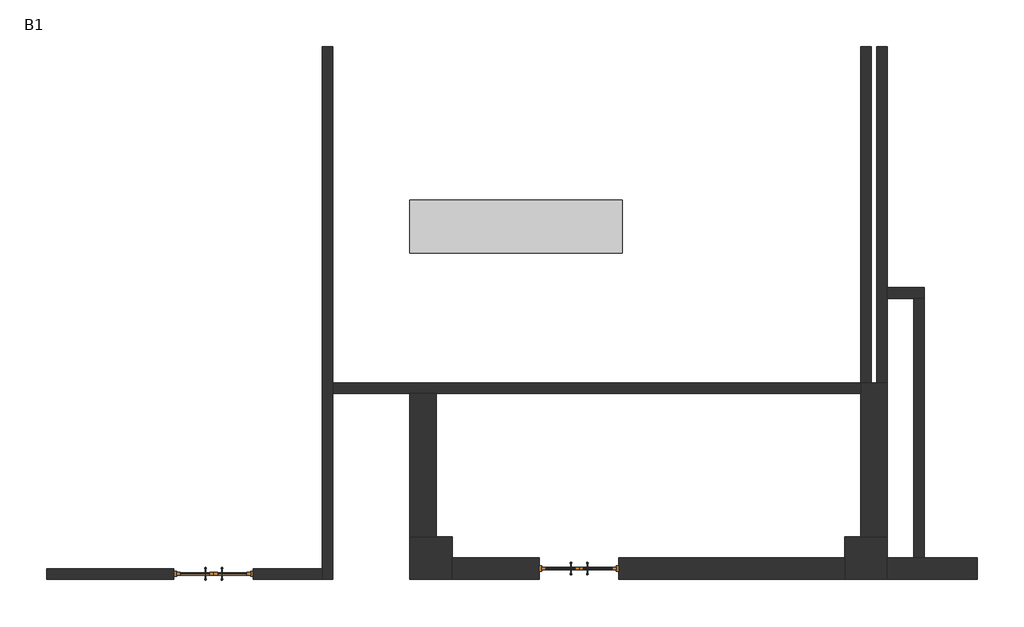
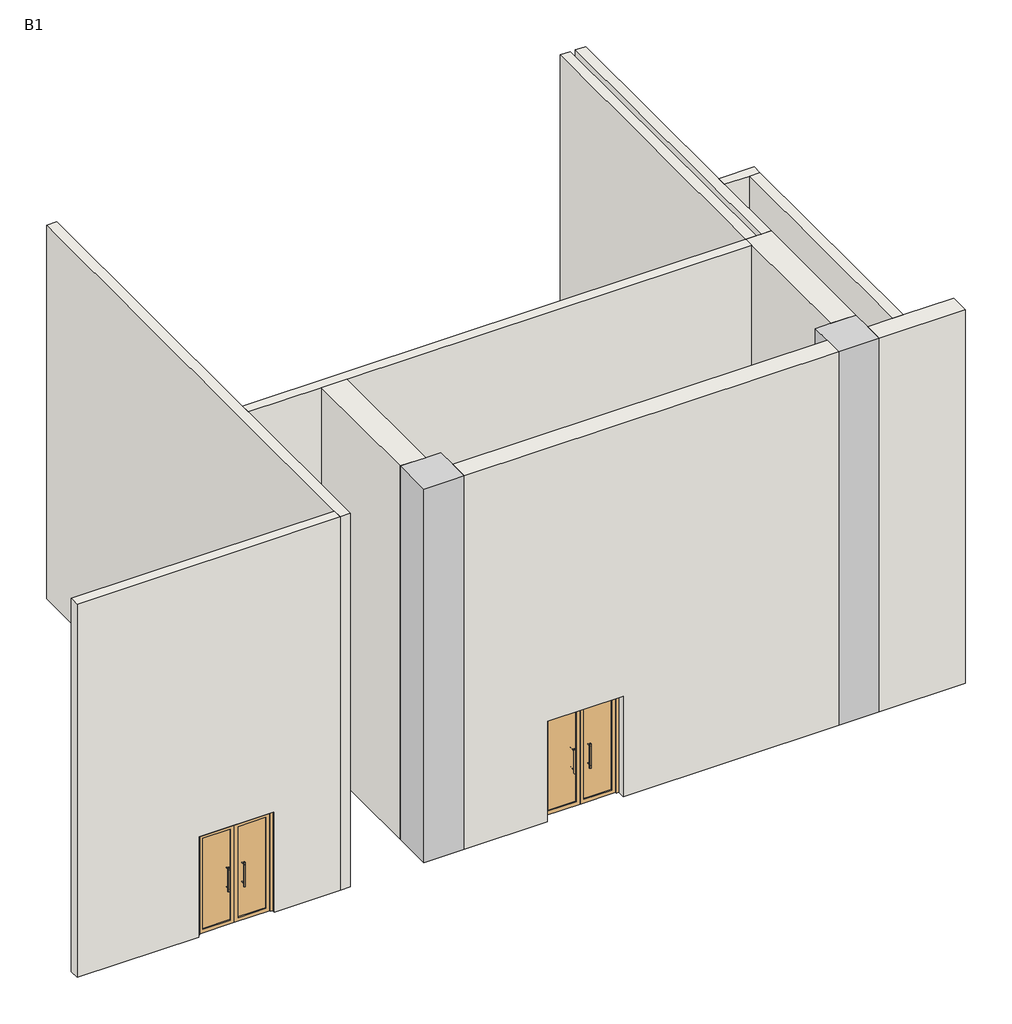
# One storey: 10 walls, 2 columns, 2 doors, 1 proxy.
"""IFC4 building model written with IfcOpenShell, lengths in millimetres."""

from ifc_helpers import new_model, si_unit, frame, origin, place, context, project, spatial, polyline, outline, extrude, faceted_brep, transform, mapped, element, save
from components import generic_models_cb15ba2c, door_1500_x_2100mm_b0fe12bd

model = new_model("IFC4")

# Units and contexts
model_context = context("Model", 3, world=origin())
ifc_project = project(units=[si_unit("LENGTHUNIT", "METRE", prefix="MILLI")], contexts=[model_context])

# Site, building, storey
site = spatial("IfcSite", under=ifc_project)
building = spatial("IfcBuilding", under=site)
storey = spatial("IfcBuildingStorey", under=building, Name="B1", Elevation=-4200.0)

# Proxy
placement = place(None, origin())
generic_models_shape = generic_models_cb15ba2c(model_context)
element("IfcBuildingElementProxy", 1, Name="基础 : 基础", ObjectType="基础 : 基础", at=placement, inside=storey, context=model_context, shape_type="MappedRepresentation", body=[
    mapped(generic_models_shape, transform((0.0, 0.0, 0.0), x_axis=(1.0, 0.0, 0.0), y_axis=(0.0, 1.0, 0.0), z_axis=(0.0, 0.0, 1.0))),
])

# Columns
element("IfcColumn", 2, ObjectType="混凝土 - 矩形 - 柱 : 800 x 800mm", at=placement, inside=storey, context=model_context, shape_type="Brep", body=[
    faceted_brep([(-6094.8451576, -8767.8389358, 3600.0), (-6394.8451576, -8767.8389358, 3600.0), (-6894.8451576, -8767.8389358, 3600.0), (-6894.8451576, -9567.8389358, 3600.0), (-6094.8451576, -9567.8389358, 3600.0), (-6094.8451576, -9167.8389358, 3600.0), (-6094.8451576, -9567.8389358, -4200.0), (-6094.8451576, -9167.8389358, -4200.0), (-6094.8451576, -8767.8389358, -4200.0), (-6894.8451576, -9567.8389358, -4200.0), (-6894.8451576, -8767.8389358, -4200.0), (-6394.8451576, -8767.8389358, -4200.0)], [[[0, 1, 2, 3, 4, 5]], [[0, 5, 4, 6, 7, 8]], [[4, 3, 9, 6]], [[3, 2, 10, 9]], [[2, 1, 0, 8, 11, 10]], [[8, 7, 6, 9, 10, 11]]]),
])
element("IfcColumn", 3, ObjectType="混凝土 - 矩形 - 柱 : 800 x 800mm", at=placement, inside=storey, context=model_context, shape_type="Brep", body=[
    faceted_brep([(2105.1548424, -8767.8389358, 3600.0), (1605.1548424, -8767.8389358, 3600.0), (1305.1548424, -8767.8389358, 3600.0), (1305.1548424, -9167.8389358, 3600.0), (1305.1548424, -9567.8389358, 3600.0), (2105.1548424, -9567.8389358, 3600.0), (2105.1548424, -9167.8389358, 3600.0), (2105.1548424, -9567.8389358, -4200.0), (2105.1548424, -9167.8389358, -4200.0), (2105.1548424, -8767.8389358, -4200.0), (1305.1548424, -9567.8389358, -4200.0), (1305.1548424, -8767.8389358, -4200.0), (1305.1548424, -9167.8389358, -4200.0), (1605.1548424, -8767.8389358, -4200.0)], [[[0, 1, 2, 3, 4, 5, 6]], [[0, 6, 5, 7, 8, 9]], [[5, 4, 10, 7]], [[4, 3, 2, 11, 12, 10]], [[2, 1, 0, 9, 13, 11]], [[9, 8, 7, 10, 12, 11, 13]]]),
])

# Doors
door_1500_x_2100mm_shape = door_1500_x_2100mm_b0fe12bd(model_context)
element("IfcDoor", 4, ObjectType="双面嵌板玻璃门 : 1500 x 2100mm", at=placement, inside=storey, context=model_context, shape_type="MappedRepresentation", body=[
    mapped(door_1500_x_2100mm_shape, transform((-3704.8451576, -9367.8389358, -4200.0), x_axis=(1.0, 0.0, 0.0), y_axis=(0.0, 1.0, 0.0), z_axis=(0.0, 0.0, 1.0))),
])
element("IfcDoor", 5, ObjectType="双面嵌板玻璃门 : 1500 x 2100mm", at=placement, inside=storey, context=model_context, shape_type="MappedRepresentation", body=[
    mapped(door_1500_x_2100mm_shape, transform((-10594.8451576, -9467.8389358, -4200.0), x_axis=(-1.0, 0.0, 0.0), y_axis=(0.0, -1.0, 0.0), z_axis=(0.0, 0.0, 1.0))),
])

# Walls
element("IfcWall", 6, ObjectType="常规 - 400mm", at=placement, inside=storey, context=model_context, shape_type="Brep", body=[
    faceted_brep([(3805.1548424, -9567.8389358, -4200.0), (3805.1548424, -9567.8389358, 3600.0), (2105.1548424, -9567.8389358, 3600.0), (2105.1548424, -9567.8389358, -4200.0), (3805.1548424, -9167.8389358, 3600.0), (3805.1548424, -9167.8389358, -4200.0), (2805.1548424, -9167.8389358, -4200.0), (2605.1548424, -9167.8389358, -4200.0), (2105.1548424, -9167.8389358, -4200.0), (2105.1548424, -9167.8389358, 3600.0), (2605.1548424, -9167.8389358, 3600.0), (2805.1548424, -9167.8389358, 3600.0)], [[[0, 1, 2, 3]], [[4, 5, 6, 7, 8, 9, 10, 11]], [[5, 0, 3, 8, 7, 6]], [[1, 0, 5, 4]], [[1, 4, 11, 10, 9, 2]], [[3, 2, 9, 8]]]),
    faceted_brep([(-6094.8451576, -9567.8389358, 3600.0), (-6094.8451576, -9567.8389358, -4200.0), (-4454.8451576, -9567.8389358, -4200.0), (-4454.8451576, -9567.8389358, -2100.0), (-2954.8451576, -9567.8389358, -2100.0), (-2954.8451576, -9567.8389358, -4200.0), (1305.1548424, -9567.8389358, -4200.0), (1305.1548424, -9567.8389358, 3600.0), (-6094.8451576, -9167.8389358, -4200.0), (-6094.8451576, -9167.8389358, 3600.0), (1305.1548424, -9167.8389358, 3600.0), (1305.1548424, -9167.8389358, -4200.0), (-2954.8451576, -9167.8389358, -4200.0), (-2954.8451576, -9167.8389358, -2100.0), (-4454.8451576, -9167.8389358, -2100.0), (-4454.8451576, -9167.8389358, -4200.0)], [[[0, 1, 2, 3, 4, 5, 6, 7]], [[8, 9, 10, 11, 12, 13, 14, 15]], [[1, 8, 15, 2]], [[5, 12, 11, 6]], [[9, 0, 7, 10]], [[1, 0, 9, 8]], [[7, 6, 11, 10]], [[4, 13, 12, 5]], [[13, 4, 3, 14]], [[14, 3, 2, 15]]]),
])
element("IfcWall", 7, ObjectType="常规 - 500mm", at=placement, inside=storey, context=model_context, shape_type="Brep", body=[
    faceted_brep([(2105.1548424, -5867.8389358, -4200.0), (2105.1548424, -5867.8389358, 3600.0), (2105.1548424, -8767.8389358, 3600.0), (2105.1548424, -8767.8389358, -4200.0), (1605.1548424, -5867.8389358, 3600.0), (1605.1548424, -5867.8389358, -4200.0), (1605.1548424, -6067.8389358, -4200.0), (1605.1548424, -8767.8389358, -4200.0), (1605.1548424, -8767.8389358, 3600.0), (1605.1548424, -6067.8389358, 3600.0), (1805.1548424, -5867.8389358, -4200.0), (1905.1548424, -5867.8389358, -4200.0), (1905.1548424, -5867.8389358, 3600.0), (1805.1548424, -5867.8389358, 3600.0)], [[[0, 1, 2, 3]], [[4, 5, 6, 7, 8, 9]], [[5, 10, 11, 0, 3, 7, 6]], [[1, 12, 13, 4, 9, 8, 2]], [[3, 2, 8, 7]], [[1, 0, 11, 10, 5, 4, 13, 12]]]),
])
element("IfcWall", 8, ObjectType="常规 - 500mm", at=placement, inside=storey, context=model_context, shape_type="SweptSolid", body=[
    extrude(outline(polyline([(-6894.8451576, -6067.8389358), (-6394.8451576, -6067.8389358), (-6394.8451576, -8767.8389358), (-6894.8451576, -8767.8389358), (-6894.8451576, -6067.8389358)])), frame((0.0, 0.0, -4200.0), z_axis=(0.0, 0.0, 1.0), x_axis=(1.0, 0.0, 0.0)), (0.0, 0.0, 1.0), 7800.0),
])
element("IfcWall", 9, ObjectType="常规 - 200mm", at=placement, inside=storey, context=model_context, shape_type="Brep", body=[
    faceted_brep([(-8344.8451576, -6067.8389358, -4200.0), (-6894.8451576, -6067.8389358, -4200.0), (-6394.8451576, -6067.8389358, -4200.0), (1605.1548424, -6067.8389358, -4200.0), (1605.1548424, -6067.8389358, 3600.0), (-6394.8451576, -6067.8389358, 3600.0), (-6894.8451576, -6067.8389358, 3600.0), (-8344.8451576, -6067.8389358, 3600.0), (-8344.8451576, -5867.8389358, -4200.0), (-8344.8451576, -5867.8389358, 3600.0), (1605.1548424, -5867.8389358, 3600.0), (1605.1548424, -5867.8389358, -4200.0)], [[[0, 1, 2, 3, 4, 5, 6, 7]], [[8, 9, 10, 11]], [[3, 2, 1, 0, 8, 11]], [[7, 6, 5, 4, 10, 9]], [[4, 3, 11, 10]], [[0, 7, 9, 8]]]),
])
element("IfcWall", 10, ObjectType="常规 - 200mm", at=placement, inside=storey, context=model_context, shape_type="Brep", body=[
    faceted_brep([(-8344.8451576, -9567.8389358, -4200.0), (-8344.8451576, -6067.8389358, -4200.0), (-8344.8451576, -5867.8389358, -4200.0), (-8344.8451576, 482.1610642, -4200.0), (-8344.8451576, 482.1610642, 3600.0), (-8344.8451576, -5867.8389358, 3600.0), (-8344.8451576, -6067.8389358, 3600.0), (-8344.8451576, -9567.8389358, 3600.0), (-8544.8451576, -9567.8389358, -4200.0), (-8544.8451576, -9567.8389358, 3600.0), (-8544.8451576, -9367.8389358, 3600.0), (-8544.8451576, 482.1610642, 3600.0), (-8544.8451576, 482.1610642, -4200.0), (-8544.8451576, -9367.8389358, -4200.0)], [[[0, 1, 2, 3, 4, 5, 6, 7]], [[8, 9, 10, 11, 12, 13]], [[3, 2, 1, 0, 8, 13, 12]], [[4, 3, 12, 11]], [[7, 6, 5, 4, 11, 10, 9]], [[0, 7, 9, 8]]]),
])
element("IfcWall", 11, ObjectType="常规 - 200mm", at=placement, inside=storey, context=model_context, shape_type="SweptSolid", body=[
    extrude(outline(polyline([(3600.0, -13744.8451576), (-4200.0, -13744.8451576), (-4200.0, -11344.8451576), (-2100.0, -11344.8451576), (-2100.0, -9844.8451576), (-4200.0, -9844.8451576), (-4200.0, -8544.8451576), (3600.0, -8544.8451576), (3600.0, -13744.8451576)])), frame((0.0, -9567.8389358, 0.0), z_axis=(0.0, 1.0, 0.0), x_axis=(0.0, 0.0, 1.0)), (0.0, 0.0, 1.0), 200.0),
])
element("IfcWall", 12, ObjectType="常规 - 200mm", at=placement, inside=storey, context=model_context, shape_type="Brep", body=[
    faceted_brep([(2105.1548424, -5867.8389358, -4200.0), (2105.1548424, -4267.8389358, -4200.0), (2105.1548424, -4067.8389358, -4200.0), (2105.1548424, 482.1610642, -4200.0), (2105.1548424, 482.1610642, 3600.0), (2105.1548424, -4067.8389358, 3600.0), (2105.1548424, -4267.8389358, 3600.0), (2105.1548424, -5867.8389358, 3600.0), (1905.1548424, -5867.8389358, -4200.0), (1905.1548424, -5867.8389358, 3600.0), (1905.1548424, 482.1610642, 3600.0), (1905.1548424, 482.1610642, -4200.0)], [[[0, 1, 2, 3, 4, 5, 6, 7]], [[8, 9, 10, 11]], [[3, 2, 1, 0, 8, 11]], [[4, 3, 11, 10]], [[7, 6, 5, 4, 10, 9]], [[0, 7, 9, 8]]]),
])
element("IfcWall", 13, ObjectType="常规 - 200mm", at=placement, inside=storey, context=model_context, shape_type="SweptSolid", body=[
    extrude(outline(polyline([(1805.1548424, 482.1610642), (1805.1548424, -5867.8389358), (1605.1548424, -5867.8389358), (1605.1548424, 482.1610642), (1805.1548424, 482.1610642)])), frame((0.0, 0.0, -4200.0), z_axis=(0.0, 0.0, 1.0), x_axis=(1.0, 0.0, 0.0)), (0.0, 0.0, 1.0), 7800.0),
])
element("IfcWall", 14, ObjectType="常规 - 200mm", at=placement, inside=storey, context=model_context, shape_type="Brep", body=[
    faceted_brep([(2105.1548424, -4267.8389358, -4200.0), (2605.1548424, -4267.8389358, -4200.0), (2805.1548424, -4267.8389358, -4200.0), (2805.1548424, -4267.8389358, 3600.0), (2605.1548424, -4267.8389358, 3600.0), (2105.1548424, -4267.8389358, 3600.0), (2105.1548424, -4067.8389358, -4200.0), (2105.1548424, -4067.8389358, 3600.0), (2805.1548424, -4067.8389358, 3600.0), (2805.1548424, -4067.8389358, -4200.0)], [[[0, 1, 2, 3, 4, 5]], [[6, 7, 8, 9]], [[2, 1, 0, 6, 9]], [[5, 4, 3, 8, 7]], [[3, 2, 9, 8]], [[0, 5, 7, 6]]]),
])
element("IfcWall", 15, ObjectType="常规 - 200mm", at=placement, inside=storey, context=model_context, shape_type="SweptSolid", body=[
    extrude(outline(polyline([(2605.1548424, -9167.8389358), (2605.1548424, -4267.8389358), (2805.1548424, -4267.8389358), (2805.1548424, -9167.8389358), (2605.1548424, -9167.8389358)])), frame((0.0, 0.0, -4200.0), z_axis=(0.0, 0.0, 1.0), x_axis=(1.0, 0.0, 0.0)), (0.0, 0.0, 1.0), 7800.0),
])

save(model, "model.ifc")
